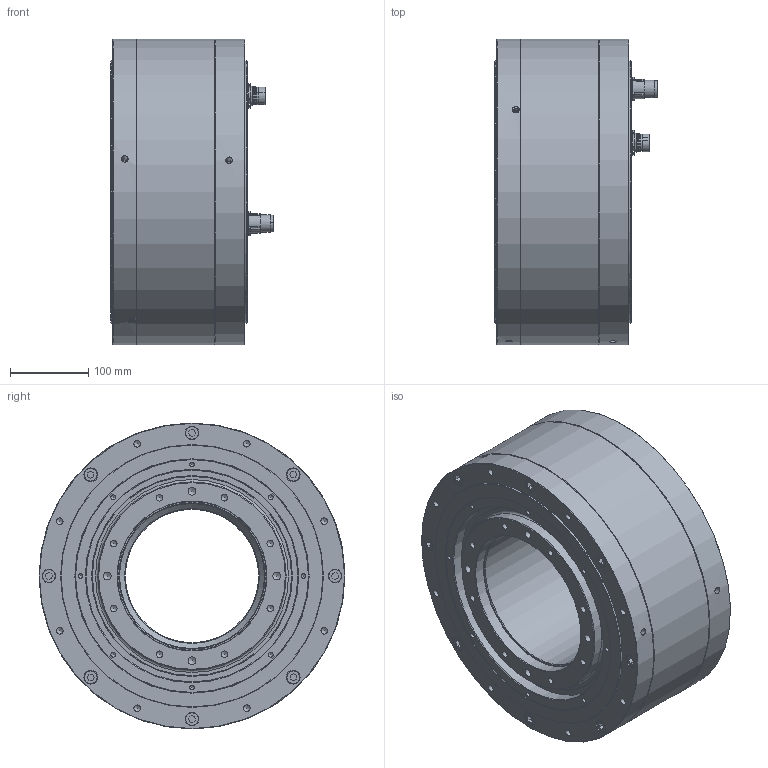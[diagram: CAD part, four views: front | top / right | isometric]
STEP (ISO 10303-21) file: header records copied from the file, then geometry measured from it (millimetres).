
FILE_DESCRIPTION( ( 'Unknown' ), '1' );
FILE_NAME( 'Q:/SKA DDR in acciaio/WEB File/SKA RT 335/3D/335CC045.stp', 'Unknown', ( 'Unknown' ), ( 'Unknown' ), 'PSStep 14.0', 'Unknown', ' ' );
FILE_SCHEMA( ( 'AUTOMOTIVE_DESIGN { 1 0 10303 214 1 1 1 1 }' ) );
Length unit declared in the file: millimetre
Products named in the file (17): Assem1; CN M23 PAN-POT BEGA 120 4 + 4 pin SpTcR; CN M23 PAN-SEG AEGA 139 17 pin SpTcR; 335FF019; 335VV017; 335FP006_rev3; 335FC001_rev3; Vite a brugola testa cil 12,9 -  M 10 x 40; Vite a brugola testa cil 8,8 -  M 2,5 x 8; Vite a brugola testa svasata 10,9 -  M  4 x 14; Vite a brugola testa cil 12,9 -  M 10 x 45; Anello OR 3 D270-oa0; Anello OR 3,53 D329,8-41300-oa1; Anello OR 3,53 D329,8-41300-oa2; Grano senza punta M  6 x 10; 335FS017; 335GG015_rev3
Assembly tree (52 placements, depth 2):
  Assem1
    CN M23 PAN-POT BEGA 120 4 + 4 pin SpTcR
    CN M23 PAN-SEG AEGA 139 17 pin SpTcR
    335FF019
    335VV017
    335FP006_rev3
    335FC001_rev3
    Vite a brugola testa cil 12,9 -  M 10 x 40  x8
    Vite a brugola testa cil 8,8 -  M 2,5 x 8  x15
    Vite a brugola testa svasata 10,9 -  M  4 x 14  x8
    Vite a brugola testa cil 12,9 -  M 10 x 45  x8
    Anello OR 3 D270-oa0
    Anello OR 3,53 D329,8-41300-oa1
    Anello OR 3,53 D329,8-41300-oa2
    Grano senza punta M  6 x 10  x2
    335FS017
    335GG015_rev3
Bounding box: 207.5 x 390 x 390 mm (x, y, z)
Volume: 10629171.2 mm3; surface area: 1404892.9 mm2
Topology: 52 solids, 52 shells, 1206 faces, 2727 edges, 1776 vertices
Faces by surface type: plane 561, cylinder 404, cone 201, torus 32, sphere 8
Full cylindrical faces by diameter (mm): 1.5 x4, 2 x17, 2.013 x8, 2.5 x19, 2.7 x4, 2.8 x4, 3.242 x20, 3.4 x8, 4 x10, 4.134 x12, 4.5 x8, 4.7 x15, 4.917 x2, 6 x10, 8.376 x68, 8.5 x8, 9 x2, 10 x24, 10.5 x24, 16 x16, 17 x2, 17.5 x16, 19.8 x2, 20 x3, 21 x2, 21.5 x2, 22 x2, 23 x2, 170 x1, 172 x1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
Entity records: 22636 total; most frequent: CARTESIAN_POINT 3375, DIRECTION 3244, ORIENTED_EDGE 2066, AXIS2_PLACEMENT_3D 1474, EDGE_LOOP 1392, EDGE_CURVE 1033, FACE_OUTER_BOUND 1027, VERTEX_POINT 969
